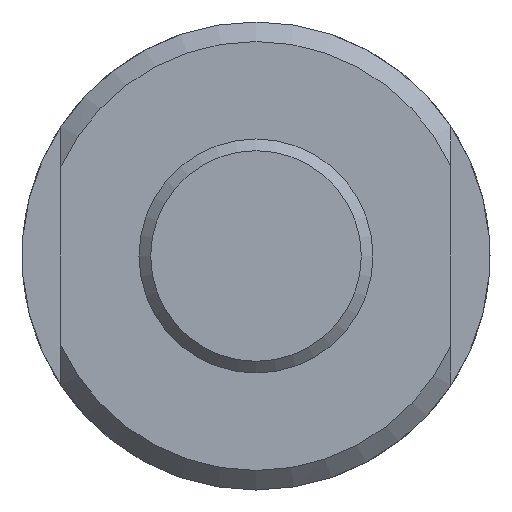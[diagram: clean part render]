
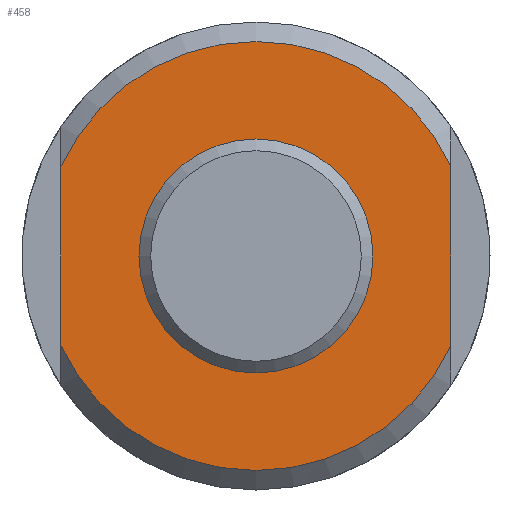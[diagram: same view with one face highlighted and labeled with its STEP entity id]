
A CAD part, left-side view. The second image highlights one B-rep face of the part: STEP entity #458.
In plain terms, the highlighted planar face has unit normal (-1, 0, 0).
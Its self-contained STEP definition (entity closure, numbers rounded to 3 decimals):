
#64=LINE('',#824,#80);
#65=LINE('',#825,#81);
#80=VECTOR('',#670,1000.);
#81=VECTOR('',#671,1000.);
#149=ORIENTED_EDGE('',*,*,#225,.F.);
#150=ORIENTED_EDGE('',*,*,#213,.F.);
#151=ORIENTED_EDGE('',*,*,#226,.T.);
#152=ORIENTED_EDGE('',*,*,#215,.F.);
#153=ORIENTED_EDGE('',*,*,#227,.T.);
#213=EDGE_CURVE('',#260,#258,#295,.T.);
#215=EDGE_CURVE('',#261,#263,#296,.T.);
#225=EDGE_CURVE('',#258,#261,#64,.T.);
#226=EDGE_CURVE('',#260,#263,#65,.T.);
#227=EDGE_CURVE('',#270,#270,#301,.T.);
#258=VERTEX_POINT('',#786);
#260=VERTEX_POINT('',#793);
#261=VERTEX_POINT('',#800);
#263=VERTEX_POINT('',#803);
#270=VERTEX_POINT('',#827);
#295=CIRCLE('',#534,5.5);
#296=CIRCLE('',#536,5.5);
#301=CIRCLE('',#543,3.);
#343=EDGE_LOOP('',(#149,#150,#151,#152));
#344=EDGE_LOOP('',(#153));
#399=FACE_BOUND('',#343,.T.);
#400=FACE_BOUND('',#344,.T.);
#430=PLANE('',#542);
#458=ADVANCED_FACE('',(#399,#400),#430,.F.);
#534=AXIS2_PLACEMENT_3D('',#794,#648,#649);
#536=AXIS2_PLACEMENT_3D('',#802,#652,#653);
#542=AXIS2_PLACEMENT_3D('',#823,#668,#669);
#543=AXIS2_PLACEMENT_3D('',#826,#672,#673);
#648=DIRECTION('',(1.,0.,0.));
#649=DIRECTION('',(0.,0.,-1.));
#652=DIRECTION('',(1.,0.,0.));
#653=DIRECTION('',(0.,0.,-1.));
#668=DIRECTION('',(1.,0.,0.));
#669=DIRECTION('',(0.,0.,-1.));
#670=DIRECTION('',(0.,0.,-1.));
#671=DIRECTION('',(0.,0.,-1.));
#672=DIRECTION('',(1.,0.,0.));
#673=DIRECTION('',(0.,0.,-1.));
#786=CARTESIAN_POINT('',(0.,-5.,2.291));
#793=CARTESIAN_POINT('',(0.,5.,2.291));
#794=CARTESIAN_POINT('',(0.,0.,0.));
#800=CARTESIAN_POINT('',(0.,-5.,-2.291));
#802=CARTESIAN_POINT('',(0.,0.,0.));
#803=CARTESIAN_POINT('',(0.,5.,-2.291));
#823=CARTESIAN_POINT('',(0.,0.,0.));
#824=CARTESIAN_POINT('',(0.,-5.,5.));
#825=CARTESIAN_POINT('',(0.,5.,5.));
#826=CARTESIAN_POINT('',(0.,0.,0.));
#827=CARTESIAN_POINT('',(0.,0.,-3.));
